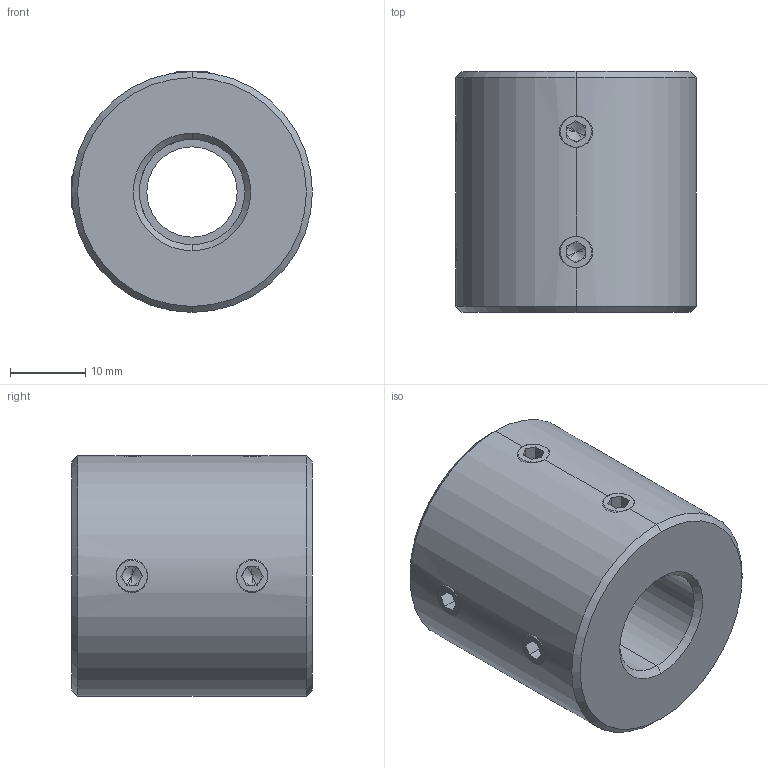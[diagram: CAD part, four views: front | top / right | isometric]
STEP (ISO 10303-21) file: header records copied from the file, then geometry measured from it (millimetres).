
FILE_DESCRIPTION (( 'STEP AP214' ), '1' );
FILE_NAME ('LL-D-D32L32-12-14½¨Ä£.STEP', '2022-07-22T11:31:48', ( '' ), ( '' ), 'SwSTEP 2.0', 'SolidWorks 2022', '' );
FILE_SCHEMA (( 'AUTOMOTIVE_DESIGN' ));
Length unit declared in the file: millimetre
Products named in the file (1): LL-D-D32L32-12-14膘耀
Bounding box: 32 x 32 x 32 mm (x, y, z)
Volume: 21235.9 mm3; surface area: 5961.1 mm2
Topology: 1 solids, 1 shells, 113 faces, 286 edges, 176 vertices
Faces by surface type: plane 59, cone 32, cylinder 22
Entity records: 3758 total; most frequent: CARTESIAN_POINT 1048, DIRECTION 558, ORIENTED_EDGE 556, EDGE_CURVE 278, AXIS2_PLACEMENT_3D 206, VERTEX_POINT 176, LINE 146, VECTOR 146
